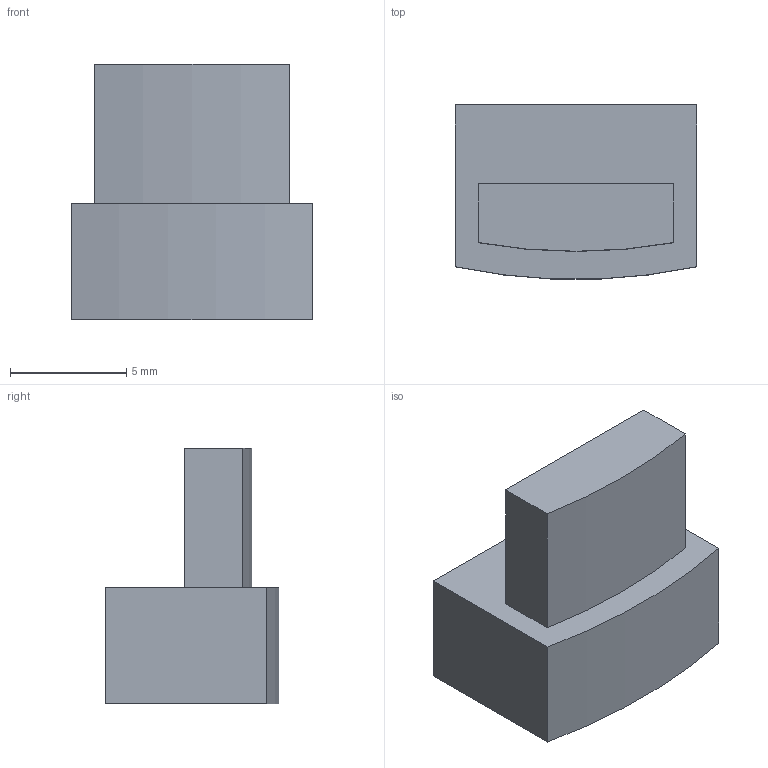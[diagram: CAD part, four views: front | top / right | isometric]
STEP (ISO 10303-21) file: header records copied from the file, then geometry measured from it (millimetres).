
FILE_DESCRIPTION (( 'STEP AP203' ), '1' );
FILE_NAME ('ChannelLine N (Endkappe l,r).STEP', '2022-08-04T07:36:14', ( '' ), ( '' ), 'SwSTEP 2.0', 'SolidWorks 2021', '' );
FILE_SCHEMA (( 'CONFIG_CONTROL_DESIGN' ));
Length unit declared in the file: millimetre
Products named in the file (1): ChannelLine N (Endkappe l,r)
Bounding box: 10.4 x 7.48 x 11 mm (x, y, z)
Volume: 520.5 mm3; surface area: 457.5 mm2
Topology: 1 solids, 1 shells, 11 faces, 24 edges, 16 vertices
Faces by surface type: plane 9, cylinder 2
Entity records: 379 total; most frequent: DIRECTION 52, CARTESIAN_POINT 52, ORIENTED_EDGE 48, EDGE_CURVE 24, LINE 20, VECTOR 20, AXIS2_PLACEMENT_3D 16, VERTEX_POINT 16
